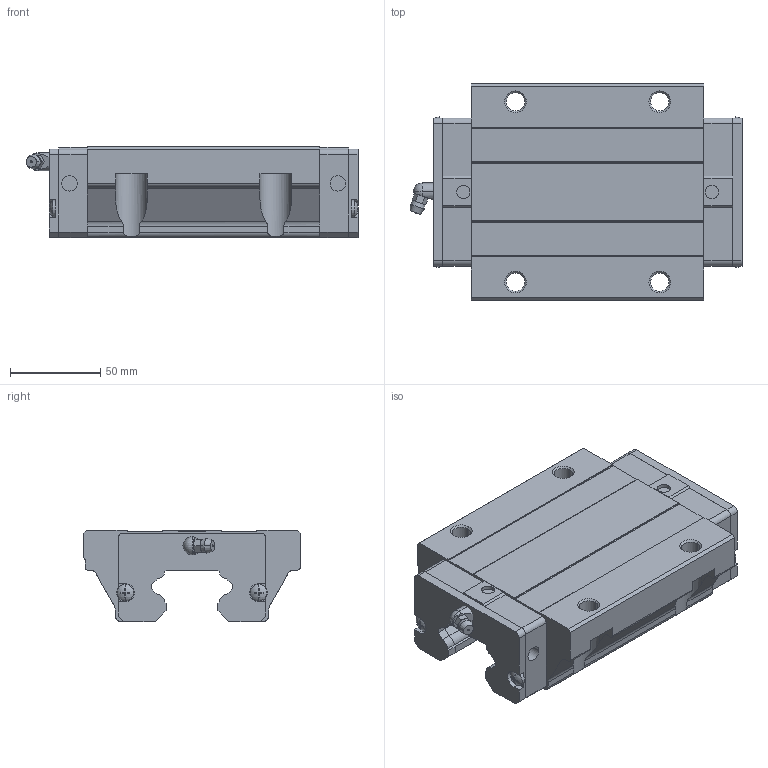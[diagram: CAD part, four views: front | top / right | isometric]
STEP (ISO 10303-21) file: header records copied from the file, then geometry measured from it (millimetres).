
FILE_DESCRIPTION(('starvars output'),'2;1');
FILE_NAME('cv20190625230847000065637.stp','23:08:47 2019/06/25',( 'Thomas Industrial Network Germany GmbH'),( 'Thomas Industrial Network Germany GmbH'),'unknown preprocess','ACIS' ,'unknown authorization');
FILE_SCHEMA(('CONFIG_CONTROL_DESIGN {UNKNOWN IMPLEMENTATION LEVEL}'));
Length unit declared in the file: millimetre
Products named in the file (10): PRODUCT_ID_1; PRODUCT_ID_2; PRODUCT_ID_3; PRODUCT_ID_4; PRODUCT_ID_5; PRODUCT_ID_6; PRODUCT_ID_7; PRODUCT_ID_8; PRODUCT_ID_9; PRODUCT_ID_10
Bounding box: 184.1 x 120 x 50.5 mm (x, y, z)
Volume: 656380.9 mm3; surface area: 102548.3 mm2
Topology: 10 solids, 10 shells, 433 faces, 1144 edges, 737 vertices
Faces by surface type: plane 270, cylinder 89, cone 62, sphere 12
Entity records: 12959 total; most frequent: ORIENTED_EDGE 2280, CARTESIAN_POINT 2273, DIRECTION 1772, EDGE_CURVE 1140, VERTEX_POINT 737, VECTOR 708, LINE 708, AXIS2_PLACEMENT_3D 532
